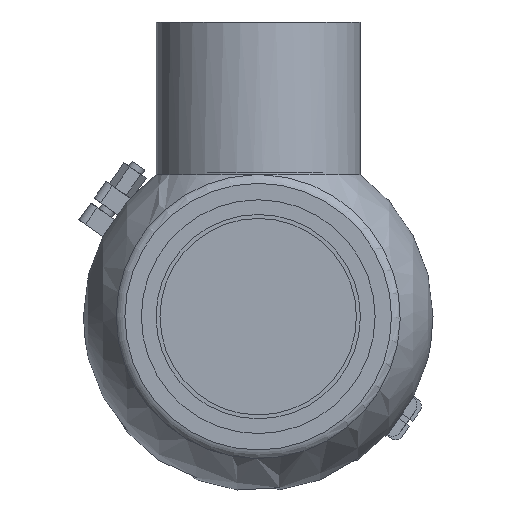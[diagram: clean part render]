
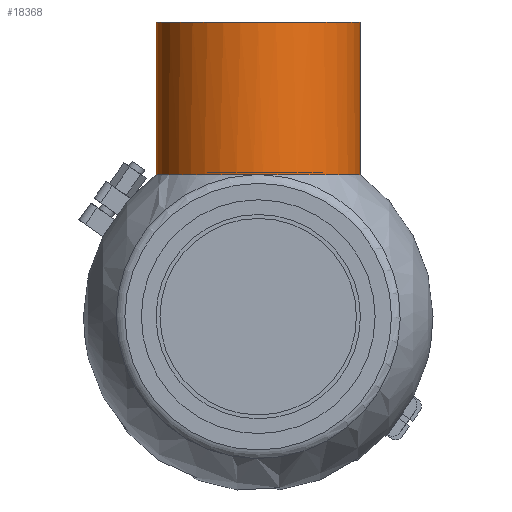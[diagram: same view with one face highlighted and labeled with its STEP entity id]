
A CAD part, front view. The second image highlights one B-rep face of the part: STEP entity #18368.
In plain terms, the highlighted cylindrical face has radius 52 mm (diameter 104 mm), a full revolution.
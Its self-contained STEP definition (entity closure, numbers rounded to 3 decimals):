
#191 = CARTESIAN_POINT ( 'NONE',  ( 150., 0., 0. ) ) ;
#1320 = CARTESIAN_POINT ( 'NONE',  ( 72.229, 0., 0. ) ) ;
#1369 = FACE_OUTER_BOUND ( 'NONE', #27666, .T. ) ;
#1624 = EDGE_CURVE ( 'NONE', #55624, #60336, #6978, .T. ) ;
#5081 = EDGE_CURVE ( 'NONE', #7801, #55624, #58562, .T. ) ;
#6978 = CIRCLE ( 'NONE', #12934, 52. ) ;
#7801 = VERTEX_POINT ( 'NONE', #47608 ) ;
#8800 = DIRECTION ( 'NONE',  ( -1., 0., 0. ) ) ;
#8880 = ORIENTED_EDGE ( 'NONE', *, *, #15821, .T. ) ;
#9137 = AXIS2_PLACEMENT_3D ( 'NONE', #191, #8800, #23281 ) ;
#10011 = FACE_OUTER_BOUND ( 'NONE', #12885, .T. ) ;
#10570 = ORIENTED_EDGE ( 'NONE', *, *, #36942, .T. ) ;
#12885 = EDGE_LOOP ( 'NONE', ( #10570 ) ) ;
#12934 = AXIS2_PLACEMENT_3D ( 'NONE', #1320, #48656, #20439 ) ;
#14587 = CARTESIAN_POINT ( 'NONE',  ( 72.229, -51.947, 2.34 ) ) ;
#14647 = CARTESIAN_POINT ( 'NONE',  ( 0., 0., 0. ) ) ;
#15651 = CARTESIAN_POINT ( 'NONE',  ( 72.229, -52.017, 0.786 ) ) ;
#15821 = EDGE_CURVE ( 'NONE', #60336, #59248, #52173, .T. ) ;
#15958 = CARTESIAN_POINT ( 'NONE',  ( 72.229, -52.018, -0.773 ) ) ;
#18062 = DIRECTION ( 'NONE',  ( 1., 0., 0. ) ) ;
#18293 = CARTESIAN_POINT ( 'NONE',  ( 72.229, 51.971, 1.75 ) ) ;
#18368 = ADVANCED_FACE ( 'NONE', ( #1369, #10011 ), #34258, .T. ) ;
#18677 = CARTESIAN_POINT ( 'NONE',  ( 72.229, 51.971, -1.75 ) ) ;
#20439 = DIRECTION ( 'NONE',  ( 0., 0., 1. ) ) ;
#20730 = ORIENTED_EDGE ( 'NONE', *, *, #5081, .T. ) ;
#21790 = VERTEX_POINT ( 'NONE', #59412 ) ;
#22312 = ORIENTED_EDGE ( 'NONE', *, *, #1624, .T. ) ;
#23271 = CARTESIAN_POINT ( 'NONE',  ( 72.257, 52.01, -0.579 ) ) ;
#23281 = DIRECTION ( 'NONE',  ( 0., 0., 1. ) ) ;
#25768 = CIRCLE ( 'NONE', #9137, 52. ) ;
#27666 = EDGE_LOOP ( 'NONE', ( #22312, #8880, #55949, #20730 ) ) ;
#29870 = CARTESIAN_POINT ( 'NONE',  ( 72.229, -51.947, -2.34 ) ) ;
#30032 = CARTESIAN_POINT ( 'NONE',  ( 72.229, -51.947, 2.34 ) ) ;
#30601 = DIRECTION ( 'NONE',  ( 0., 0., 1. ) ) ;
#33068 = CIRCLE ( 'NONE', #57739, 52. ) ;
#33326 = DIRECTION ( 'NONE',  ( -1., 0., 0. ) ) ;
#34258 = CYLINDRICAL_SURFACE ( 'NONE', #41307, 52. ) ;
#36942 = EDGE_CURVE ( 'NONE', #21790, #21790, #25768, .T. ) ;
#39312 = CARTESIAN_POINT ( 'NONE',  ( 72.229, -51.947, -2.34 ) ) ;
#41307 = AXIS2_PLACEMENT_3D ( 'NONE', #14647, #33326, #53081 ) ;
#44766 = CARTESIAN_POINT ( 'NONE',  ( 72.229, 0., 0. ) ) ;
#47608 = CARTESIAN_POINT ( 'NONE',  ( 72.229, 51.971, -1.75 ) ) ;
#48656 = DIRECTION ( 'NONE',  ( 1., 0., 0. ) ) ;
#52173 = B_SPLINE_CURVE_WITH_KNOTS ( 'NONE', 3,
 ( #30032, #15651, #15958, #39312 ),
 .UNSPECIFIED., .F., .F.,
 ( 4, 4 ),
 ( 0.022, 0.026 ),
 .UNSPECIFIED. ) ;
#53081 = DIRECTION ( 'NONE',  ( 0., 0., 1. ) ) ;
#55206 = EDGE_CURVE ( 'NONE', #59248, #7801, #33068, .T. ) ;
#55624 = VERTEX_POINT ( 'NONE', #18293 ) ;
#55903 = CARTESIAN_POINT ( 'NONE',  ( 72.257, 52.01, 0.587 ) ) ;
#55949 = ORIENTED_EDGE ( 'NONE', *, *, #55206, .T. ) ;
#57739 = AXIS2_PLACEMENT_3D ( 'NONE', #44766, #18062, #30601 ) ;
#58562 = B_SPLINE_CURVE_WITH_KNOTS ( 'NONE', 3,
 ( #18677, #23271, #55903, #60584 ),
 .UNSPECIFIED., .F., .F.,
 ( 4, 4 ),
 ( 0.017, 0.02 ),
 .UNSPECIFIED. ) ;
#59248 = VERTEX_POINT ( 'NONE', #29870 ) ;
#59412 = CARTESIAN_POINT ( 'NONE',  ( 150., 0., 52. ) ) ;
#60336 = VERTEX_POINT ( 'NONE', #14587 ) ;
#60584 = CARTESIAN_POINT ( 'NONE',  ( 72.229, 51.971, 1.75 ) ) ;
